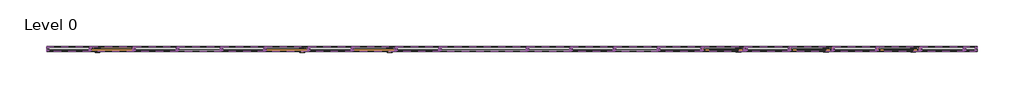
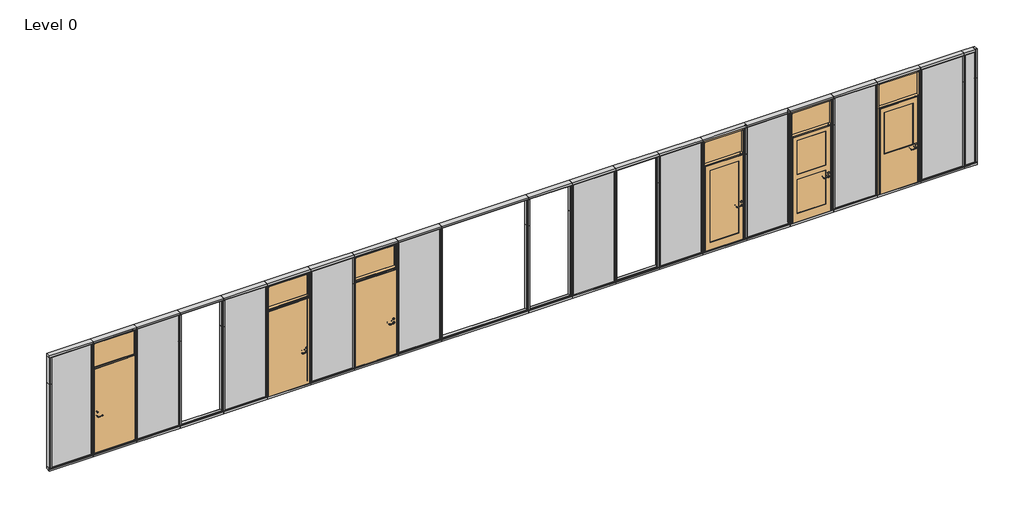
# One storey, incomplete: 88 members, 12 plates, 6 doors.
"""IFC4 building model written with IfcOpenShell, lengths in millimetres."""

from ifc_helpers import new_model, si_unit, origin, place, context, project, spatial, transform, mapped, element, save
from components import door_6222ef06, door_3c1db5f4, door_4baf7495, door_3_3_d5ae6cf6, door_4_4_9f9d6679, door_5_5_48de552c, rectangular_mullion_rectangular_mullion_fw_bottom_a8f9fcf1, rectangular_mullion_rectangular_mullion_fw_bottom_0e01fafb, rectangular_mullion_rectangular_mullion_fw_bottom_02d11245, rectangular_mullion_rectangular_mullion_fw_bottom_2e3af1dd, rectangular_mullion_rectangular_mullion_fw_bottom_7ba08840, rectangular_mullion_rectangular_mullion_fw_left_d1c3b4dc, rectangular_mullion_rectangular_mullion_fw_left_6e35ccd5, rectangular_mullion_rectangular_mullion_fw_right_3b88cd19, rectangular_mullion_rectangular_mullion_fw_right_08d4080d, rectangular_mullion_rectangular_mullion_fw_top_c0870f2a, rectangular_mullion_rectangular_mullion_fw_top_1fdbd171, rectangular_mullion_rectangular_mullion_fw_top_1aba9e78, rectangular_mullion_rectangular_mullion_fw_top_ee255a1c, rectangular_mullion_rectangular_mullion_fw_top_fcf5f003, rectangular_mullion_rectangular_mullion_fw_vertical_2f159c8b, rectangular_mullion_rectangular_mullion_fw_vertical_616d87cb, plate_3e7716df, plate_6305fb53, plate_30c6cda6, plate_ed2b80f9

model = new_model("IFC4")

# Units and contexts
model_context = context("Model", 3, world=origin())
ifc_project = project(units=[si_unit("LENGTHUNIT", "METRE", prefix="MILLI")], contexts=[model_context])

# Site, building, storey
site = spatial("IfcSite", under=ifc_project)
building = spatial("IfcBuilding", under=site)
storey = spatial("IfcBuildingStorey", under=building, Name="Level 0", Elevation=0.0)

# Doors
placement = place(None, origin())
door_shape = door_6222ef06(model_context)
element("IfcDoor", 1, ObjectType="WOOD LINE_GLASPARTI & ELLUCKA : WOOD LINE_GLASPARTI & ELLUCKA", at=placement, inside=storey, context=model_context, shape_type="MappedRepresentation", body=[
    mapped(door_shape, transform((-2222.0187531, 622.312596, 42.0), x_axis=(1.0, 0.0, 0.0), y_axis=(0.0, 1.0, 0.0), z_axis=(0.0, 0.0, 1.0))),
])
door_2_shape = door_3c1db5f4(model_context)
element("IfcDoor", 2, ObjectType="WOOD LINE_DÖRR & GLASPARTI INDRAGEN SOCKEL : WOOD LINE_DÖRR & GLASPARTI INDRAGEN SOCKEL", at=placement, inside=storey, context=model_context, shape_type="MappedRepresentation", body=[
    mapped(door_2_shape, transform((-4222.0187531, 622.312596, 42.0), x_axis=(1.0, 0.0, 0.0), y_axis=(0.0, 1.0, 0.0), z_axis=(0.0, 0.0, 1.0))),
])
door_3_shape = door_4baf7495(model_context)
element("IfcDoor", 3, ObjectType="WOOD LINE_GARDEROBSKARM : WOOD LINE_GARDEROBSKARM", at=placement, inside=storey, context=model_context, shape_type="MappedRepresentation", body=[
    mapped(door_3_shape, transform((-8222.0187531, 622.312596, 42.0), x_axis=(1.0, 0.0, 0.0), y_axis=(0.0, 1.0, 0.0), z_axis=(0.0, 0.0, 1.0))),
])
door_3_3_shape = door_3_3_d5ae6cf6(model_context)
element("IfcDoor", 4, ObjectType="3 : 3", at=placement, inside=storey, context=model_context, shape_type="MappedRepresentation", body=[
    mapped(door_3_3_shape, transform((5767.9812469, 622.312596, 42.0), x_axis=(1.0, 0.0, 0.0), y_axis=(0.0, 1.0, 0.0), z_axis=(0.0, 0.0, 1.0))),
])
door_4_4_shape = door_4_4_9f9d6679(model_context)
element("IfcDoor", 5, ObjectType="4 : 4", at=placement, inside=storey, context=model_context, shape_type="MappedRepresentation", body=[
    mapped(door_4_4_shape, transform((7777.9812469, 622.312596, 42.0), x_axis=(1.0, 0.0, 0.0), y_axis=(0.0, 1.0, 0.0), z_axis=(0.0, 0.0, 1.0))),
])
door_5_5_shape = door_5_5_48de552c(model_context)
element("IfcDoor", 6, ObjectType="5 : 5", at=placement, inside=storey, context=model_context, shape_type="MappedRepresentation", body=[
    mapped(door_5_5_shape, transform((9777.9812469, 622.312596, 42.0), x_axis=(1.0, 0.0, 0.0), y_axis=(0.0, 1.0, 0.0), z_axis=(0.0, 0.0, 1.0))),
])

# Members
rectangular_mullion_rectangular_mullion_fw_bottom_shape = rectangular_mullion_rectangular_mullion_fw_bottom_a8f9fcf1(model_context)
element("IfcMember", 7, ObjectType="Rectangular Mullion : Rectangular Mullion-FW Bottom", at=placement, inside=storey, context=model_context, shape_type="MappedRepresentation", body=[
    mapped(rectangular_mullion_rectangular_mullion_fw_bottom_shape, transform((-8722.0187531, 622.312596, 0.0), x_axis=(0.0, 0.0, -1.0), y_axis=(0.0, -1.0, 0.0), z_axis=(-1.0, 0.0, 0.0))),
])
element("IfcMember", 8, ObjectType="Rectangular Mullion : Rectangular Mullion-FW Bottom", at=placement, inside=storey, context=model_context, shape_type="MappedRepresentation", body=[
    mapped(rectangular_mullion_rectangular_mullion_fw_bottom_shape, transform((-7722.0187531, 622.312596, 0.0), x_axis=(0.0, 0.0, -1.0), y_axis=(0.0, -1.0, 0.0), z_axis=(-1.0, 0.0, 0.0))),
])
element("IfcMember", 9, ObjectType="Rectangular Mullion : Rectangular Mullion-FW Bottom", at=placement, inside=storey, context=model_context, shape_type="MappedRepresentation", body=[
    mapped(rectangular_mullion_rectangular_mullion_fw_bottom_shape, transform((-6722.0187531, 622.312596, 0.0), x_axis=(0.0, 0.0, -1.0), y_axis=(0.0, -1.0, 0.0), z_axis=(-1.0, 0.0, 0.0))),
])
element("IfcMember", 10, ObjectType="Rectangular Mullion : Rectangular Mullion-FW Bottom", at=placement, inside=storey, context=model_context, shape_type="MappedRepresentation", body=[
    mapped(rectangular_mullion_rectangular_mullion_fw_bottom_shape, transform((-5722.0187531, 622.312596, 0.0), x_axis=(0.0, 0.0, -1.0), y_axis=(0.0, -1.0, 0.0), z_axis=(-1.0, 0.0, 0.0))),
])
element("IfcMember", 11, ObjectType="Rectangular Mullion : Rectangular Mullion-FW Bottom", at=placement, inside=storey, context=model_context, shape_type="MappedRepresentation", body=[
    mapped(rectangular_mullion_rectangular_mullion_fw_bottom_shape, transform((-4722.0187531, 622.312596, 0.0), x_axis=(0.0, 0.0, -1.0), y_axis=(0.0, -1.0, 0.0), z_axis=(-1.0, 0.0, 0.0))),
])
element("IfcMember", 12, ObjectType="Rectangular Mullion : Rectangular Mullion-FW Bottom", at=placement, inside=storey, context=model_context, shape_type="MappedRepresentation", body=[
    mapped(rectangular_mullion_rectangular_mullion_fw_bottom_shape, transform((-3722.0187531, 622.312596, 0.0), x_axis=(0.0, 0.0, -1.0), y_axis=(0.0, -1.0, 0.0), z_axis=(-1.0, 0.0, 0.0))),
])
element("IfcMember", 13, ObjectType="Rectangular Mullion : Rectangular Mullion-FW Bottom", at=placement, inside=storey, context=model_context, shape_type="MappedRepresentation", body=[
    mapped(rectangular_mullion_rectangular_mullion_fw_bottom_shape, transform((-2722.0187531, 622.312596, 0.0), x_axis=(0.0, 0.0, -1.0), y_axis=(0.0, -1.0, 0.0), z_axis=(-1.0, 0.0, 0.0))),
])
element("IfcMember", 14, ObjectType="Rectangular Mullion : Rectangular Mullion-FW Bottom", at=placement, inside=storey, context=model_context, shape_type="MappedRepresentation", body=[
    mapped(rectangular_mullion_rectangular_mullion_fw_bottom_shape, transform((-1722.0187531, 622.312596, 0.0), x_axis=(0.0, 0.0, -1.0), y_axis=(0.0, -1.0, 0.0), z_axis=(-1.0, 0.0, 0.0))),
])
element("IfcMember", 15, ObjectType="Rectangular Mullion : Rectangular Mullion-FW Bottom", at=placement, inside=storey, context=model_context, shape_type="MappedRepresentation", body=[
    mapped(rectangular_mullion_rectangular_mullion_fw_bottom_shape, transform((1277.9812469, 622.312596, 0.0), x_axis=(0.0, 0.0, -1.0), y_axis=(0.0, -1.0, 0.0), z_axis=(-1.0, 0.0, 0.0))),
])
element("IfcMember", 16, ObjectType="Rectangular Mullion : Rectangular Mullion-FW Bottom", at=placement, inside=storey, context=model_context, shape_type="MappedRepresentation", body=[
    mapped(rectangular_mullion_rectangular_mullion_fw_bottom_shape, transform((2277.9812469, 622.312596, 0.0), x_axis=(0.0, 0.0, -1.0), y_axis=(0.0, -1.0, 0.0), z_axis=(-1.0, 0.0, 0.0))),
])
element("IfcMember", 17, ObjectType="Rectangular Mullion : Rectangular Mullion-FW Bottom", at=placement, inside=storey, context=model_context, shape_type="MappedRepresentation", body=[
    mapped(rectangular_mullion_rectangular_mullion_fw_bottom_shape, transform((3277.9812469, 622.312596, 0.0), x_axis=(0.0, 0.0, -1.0), y_axis=(0.0, -1.0, 0.0), z_axis=(-1.0, 0.0, 0.0))),
])
element("IfcMember", 18, ObjectType="Rectangular Mullion : Rectangular Mullion-FW Bottom", at=placement, inside=storey, context=model_context, shape_type="MappedRepresentation", body=[
    mapped(rectangular_mullion_rectangular_mullion_fw_bottom_shape, transform((4277.9812469, 622.312596, 0.0), x_axis=(0.0, 0.0, -1.0), y_axis=(0.0, -1.0, 0.0), z_axis=(-1.0, 0.0, 0.0))),
])
element("IfcMember", 19, ObjectType="Rectangular Mullion : Rectangular Mullion-FW Bottom", at=placement, inside=storey, context=model_context, shape_type="MappedRepresentation", body=[
    mapped(rectangular_mullion_rectangular_mullion_fw_bottom_shape, transform((7277.9812469, 622.312596, 0.0), x_axis=(0.0, 0.0, -1.0), y_axis=(0.0, -1.0, 0.0), z_axis=(-1.0, 0.0, 0.0))),
])
element("IfcMember", 20, ObjectType="Rectangular Mullion : Rectangular Mullion-FW Bottom", at=placement, inside=storey, context=model_context, shape_type="MappedRepresentation", body=[
    mapped(rectangular_mullion_rectangular_mullion_fw_bottom_shape, transform((8277.9812469, 622.312596, 0.0), x_axis=(0.0, 0.0, -1.0), y_axis=(0.0, -1.0, 0.0), z_axis=(-1.0, 0.0, 0.0))),
])
element("IfcMember", 21, ObjectType="Rectangular Mullion : Rectangular Mullion-FW Bottom", at=placement, inside=storey, context=model_context, shape_type="MappedRepresentation", body=[
    mapped(rectangular_mullion_rectangular_mullion_fw_bottom_shape, transform((9277.9812469, 622.312596, 0.0), x_axis=(0.0, 0.0, -1.0), y_axis=(0.0, -1.0, 0.0), z_axis=(-1.0, 0.0, 0.0))),
])
element("IfcMember", 22, ObjectType="Rectangular Mullion : Rectangular Mullion-FW Bottom", at=placement, inside=storey, context=model_context, shape_type="MappedRepresentation", body=[
    mapped(rectangular_mullion_rectangular_mullion_fw_bottom_shape, transform((10277.9812469, 622.312596, 0.0), x_axis=(0.0, 0.0, -1.0), y_axis=(0.0, -1.0, 0.0), z_axis=(-1.0, 0.0, 0.0))),
])
element("IfcMember", 23, ObjectType="Rectangular Mullion : Rectangular Mullion-FW Bottom", at=placement, inside=storey, context=model_context, shape_type="MappedRepresentation", body=[
    mapped(rectangular_mullion_rectangular_mullion_fw_bottom_shape, transform((-9722.0187531, 622.312596, 0.0), x_axis=(0.0, 0.0, -1.0), y_axis=(0.0, -1.0, 0.0), z_axis=(-1.0, 0.0, 0.0))),
])
rectangular_mullion_rectangular_mullion_fw_bottom_2_shape = rectangular_mullion_rectangular_mullion_fw_bottom_0e01fafb(model_context)
element("IfcMember", 24, ObjectType="Rectangular Mullion : Rectangular Mullion-FW Bottom", at=placement, inside=storey, context=model_context, shape_type="MappedRepresentation", body=[
    mapped(rectangular_mullion_rectangular_mullion_fw_bottom_2_shape, transform((-722.0187531, 622.312596, 0.0), x_axis=(0.0, 0.0, -1.0), y_axis=(0.0, -1.0, 0.0), z_axis=(-1.0, 0.0, 0.0))),
])
rectangular_mullion_rectangular_mullion_fw_bottom_3_shape = rectangular_mullion_rectangular_mullion_fw_bottom_02d11245(model_context)
element("IfcMember", 25, ObjectType="Rectangular Mullion : Rectangular Mullion-FW Bottom", at=placement, inside=storey, context=model_context, shape_type="MappedRepresentation", body=[
    mapped(rectangular_mullion_rectangular_mullion_fw_bottom_3_shape, transform((5277.9812469, 622.312596, 0.0), x_axis=(0.0, 0.0, -1.0), y_axis=(0.0, -1.0, 0.0), z_axis=(-1.0, 0.0, 0.0))),
])
rectangular_mullion_rectangular_mullion_fw_bottom_4_shape = rectangular_mullion_rectangular_mullion_fw_bottom_2e3af1dd(model_context)
element("IfcMember", 26, ObjectType="Rectangular Mullion : Rectangular Mullion-FW Bottom", at=placement, inside=storey, context=model_context, shape_type="MappedRepresentation", body=[
    mapped(rectangular_mullion_rectangular_mullion_fw_bottom_4_shape, transform((6249.9812469, 622.312596, 0.0), x_axis=(0.0, 0.0, -1.0), y_axis=(0.0, -1.0, 0.0), z_axis=(-1.0, 0.0, 0.0))),
])
rectangular_mullion_rectangular_mullion_fw_bottom_5_shape = rectangular_mullion_rectangular_mullion_fw_bottom_7ba08840(model_context)
element("IfcMember", 27, ObjectType="Rectangular Mullion : Rectangular Mullion-FW Bottom", at=placement, inside=storey, context=model_context, shape_type="MappedRepresentation", body=[
    mapped(rectangular_mullion_rectangular_mullion_fw_bottom_5_shape, transform((11277.9812469, 622.312596, 0.0), x_axis=(0.0, 0.0, -1.0), y_axis=(0.0, -1.0, 0.0), z_axis=(-1.0, 0.0, 0.0))),
])
rectangular_mullion_rectangular_mullion_fw_left_shape = rectangular_mullion_rectangular_mullion_fw_left_d1c3b4dc(model_context)
element("IfcMember", 28, ObjectType="Rectangular Mullion : Rectangular Mullion-FW Left", at=placement, inside=storey, context=model_context, shape_type="MappedRepresentation", body=[
    mapped(rectangular_mullion_rectangular_mullion_fw_left_shape, transform((-9722.0187531, 622.312596, 2738.0), x_axis=(-1.0, 0.0, 0.0), y_axis=(0.0, -1.0, 0.0), z_axis=(0.0, 0.0, 1.0))),
])
rectangular_mullion_rectangular_mullion_fw_left_2_shape = rectangular_mullion_rectangular_mullion_fw_left_6e35ccd5(model_context)
element("IfcMember", 29, ObjectType="Rectangular Mullion : Rectangular Mullion-FW Left", at=placement, inside=storey, context=model_context, shape_type="MappedRepresentation", body=[
    mapped(rectangular_mullion_rectangular_mullion_fw_left_2_shape, transform((-9722.0187531, 622.312596, 2100.0), x_axis=(-1.0, 0.0, 0.0), y_axis=(0.0, -1.0, 0.0), z_axis=(0.0, 0.0, 1.0))),
])
rectangular_mullion_rectangular_mullion_fw_right_shape = rectangular_mullion_rectangular_mullion_fw_right_3b88cd19(model_context)
element("IfcMember", 30, ObjectType="Rectangular Mullion : Rectangular Mullion-FW Right", at=placement, inside=storey, context=model_context, shape_type="MappedRepresentation", body=[
    mapped(rectangular_mullion_rectangular_mullion_fw_right_shape, transform((11577.9812469, 622.312596, 62.0), x_axis=(1.0, 0.0, 0.0), y_axis=(0.0, -1.0, 0.0), z_axis=(0.0, 0.0, -1.0))),
])
rectangular_mullion_rectangular_mullion_fw_right_2_shape = rectangular_mullion_rectangular_mullion_fw_right_08d4080d(model_context)
element("IfcMember", 31, ObjectType="Rectangular Mullion : Rectangular Mullion-FW Right", at=placement, inside=storey, context=model_context, shape_type="MappedRepresentation", body=[
    mapped(rectangular_mullion_rectangular_mullion_fw_right_2_shape, transform((11577.9812469, 622.312596, 2100.0), x_axis=(1.0, 0.0, 0.0), y_axis=(0.0, -1.0, 0.0), z_axis=(0.0, 0.0, -1.0))),
])
rectangular_mullion_rectangular_mullion_fw_top_shape = rectangular_mullion_rectangular_mullion_fw_top_c0870f2a(model_context)
element("IfcMember", 32, ObjectType="Rectangular Mullion : Rectangular Mullion-FW Top", at=placement, inside=storey, context=model_context, shape_type="MappedRepresentation", body=[
    mapped(rectangular_mullion_rectangular_mullion_fw_top_shape, transform((-8722.0187531, 622.312596, 2800.0), x_axis=(0.0, 0.0, 1.0), y_axis=(0.0, -1.0, 0.0), z_axis=(1.0, 0.0, 0.0))),
])
element("IfcMember", 33, ObjectType="Rectangular Mullion : Rectangular Mullion-FW Top", at=placement, inside=storey, context=model_context, shape_type="MappedRepresentation", body=[
    mapped(rectangular_mullion_rectangular_mullion_fw_top_shape, transform((-7722.0187531, 622.312596, 2800.0), x_axis=(0.0, 0.0, 1.0), y_axis=(0.0, -1.0, 0.0), z_axis=(1.0, 0.0, 0.0))),
])
element("IfcMember", 34, ObjectType="Rectangular Mullion : Rectangular Mullion-FW Top", at=placement, inside=storey, context=model_context, shape_type="MappedRepresentation", body=[
    mapped(rectangular_mullion_rectangular_mullion_fw_top_shape, transform((-6722.0187531, 622.312596, 2800.0), x_axis=(0.0, 0.0, 1.0), y_axis=(0.0, -1.0, 0.0), z_axis=(1.0, 0.0, 0.0))),
])
element("IfcMember", 35, ObjectType="Rectangular Mullion : Rectangular Mullion-FW Top", at=placement, inside=storey, context=model_context, shape_type="MappedRepresentation", body=[
    mapped(rectangular_mullion_rectangular_mullion_fw_top_shape, transform((-5722.0187531, 622.312596, 2800.0), x_axis=(0.0, 0.0, 1.0), y_axis=(0.0, -1.0, 0.0), z_axis=(1.0, 0.0, 0.0))),
])
element("IfcMember", 36, ObjectType="Rectangular Mullion : Rectangular Mullion-FW Top", at=placement, inside=storey, context=model_context, shape_type="MappedRepresentation", body=[
    mapped(rectangular_mullion_rectangular_mullion_fw_top_shape, transform((-4722.0187531, 622.312596, 2800.0), x_axis=(0.0, 0.0, 1.0), y_axis=(0.0, -1.0, 0.0), z_axis=(1.0, 0.0, 0.0))),
])
element("IfcMember", 37, ObjectType="Rectangular Mullion : Rectangular Mullion-FW Top", at=placement, inside=storey, context=model_context, shape_type="MappedRepresentation", body=[
    mapped(rectangular_mullion_rectangular_mullion_fw_top_shape, transform((-3722.0187531, 622.312596, 2800.0), x_axis=(0.0, 0.0, 1.0), y_axis=(0.0, -1.0, 0.0), z_axis=(1.0, 0.0, 0.0))),
])
element("IfcMember", 38, ObjectType="Rectangular Mullion : Rectangular Mullion-FW Top", at=placement, inside=storey, context=model_context, shape_type="MappedRepresentation", body=[
    mapped(rectangular_mullion_rectangular_mullion_fw_top_shape, transform((-2722.0187531, 622.312596, 2800.0), x_axis=(0.0, 0.0, 1.0), y_axis=(0.0, -1.0, 0.0), z_axis=(1.0, 0.0, 0.0))),
])
element("IfcMember", 39, ObjectType="Rectangular Mullion : Rectangular Mullion-FW Top", at=placement, inside=storey, context=model_context, shape_type="MappedRepresentation", body=[
    mapped(rectangular_mullion_rectangular_mullion_fw_top_shape, transform((-1722.0187531, 622.312596, 2800.0), x_axis=(0.0, 0.0, 1.0), y_axis=(0.0, -1.0, 0.0), z_axis=(1.0, 0.0, 0.0))),
])
element("IfcMember", 40, ObjectType="Rectangular Mullion : Rectangular Mullion-FW Top", at=placement, inside=storey, context=model_context, shape_type="MappedRepresentation", body=[
    mapped(rectangular_mullion_rectangular_mullion_fw_top_shape, transform((-722.0187531, 622.312596, 2800.0), x_axis=(0.0, 0.0, 1.0), y_axis=(0.0, -1.0, 0.0), z_axis=(1.0, 0.0, 0.0))),
])
element("IfcMember", 41, ObjectType="Rectangular Mullion : Rectangular Mullion-FW Top", at=placement, inside=storey, context=model_context, shape_type="MappedRepresentation", body=[
    mapped(rectangular_mullion_rectangular_mullion_fw_top_shape, transform((2277.9812469, 622.312596, 2800.0), x_axis=(0.0, 0.0, 1.0), y_axis=(0.0, -1.0, 0.0), z_axis=(1.0, 0.0, 0.0))),
])
element("IfcMember", 42, ObjectType="Rectangular Mullion : Rectangular Mullion-FW Top", at=placement, inside=storey, context=model_context, shape_type="MappedRepresentation", body=[
    mapped(rectangular_mullion_rectangular_mullion_fw_top_shape, transform((3277.9812469, 622.312596, 2800.0), x_axis=(0.0, 0.0, 1.0), y_axis=(0.0, -1.0, 0.0), z_axis=(1.0, 0.0, 0.0))),
])
element("IfcMember", 43, ObjectType="Rectangular Mullion : Rectangular Mullion-FW Top", at=placement, inside=storey, context=model_context, shape_type="MappedRepresentation", body=[
    mapped(rectangular_mullion_rectangular_mullion_fw_top_shape, transform((4277.9812469, 622.312596, 2800.0), x_axis=(0.0, 0.0, 1.0), y_axis=(0.0, -1.0, 0.0), z_axis=(1.0, 0.0, 0.0))),
])
element("IfcMember", 44, ObjectType="Rectangular Mullion : Rectangular Mullion-FW Top", at=placement, inside=storey, context=model_context, shape_type="MappedRepresentation", body=[
    mapped(rectangular_mullion_rectangular_mullion_fw_top_shape, transform((5277.9812469, 622.312596, 2800.0), x_axis=(0.0, 0.0, 1.0), y_axis=(0.0, -1.0, 0.0), z_axis=(1.0, 0.0, 0.0))),
])
element("IfcMember", 45, ObjectType="Rectangular Mullion : Rectangular Mullion-FW Top", at=placement, inside=storey, context=model_context, shape_type="MappedRepresentation", body=[
    mapped(rectangular_mullion_rectangular_mullion_fw_top_shape, transform((8277.9812469, 622.312596, 2800.0), x_axis=(0.0, 0.0, 1.0), y_axis=(0.0, -1.0, 0.0), z_axis=(1.0, 0.0, 0.0))),
])
element("IfcMember", 46, ObjectType="Rectangular Mullion : Rectangular Mullion-FW Top", at=placement, inside=storey, context=model_context, shape_type="MappedRepresentation", body=[
    mapped(rectangular_mullion_rectangular_mullion_fw_top_shape, transform((9277.9812469, 622.312596, 2800.0), x_axis=(0.0, 0.0, 1.0), y_axis=(0.0, -1.0, 0.0), z_axis=(1.0, 0.0, 0.0))),
])
element("IfcMember", 47, ObjectType="Rectangular Mullion : Rectangular Mullion-FW Top", at=placement, inside=storey, context=model_context, shape_type="MappedRepresentation", body=[
    mapped(rectangular_mullion_rectangular_mullion_fw_top_shape, transform((10277.9812469, 622.312596, 2800.0), x_axis=(0.0, 0.0, 1.0), y_axis=(0.0, -1.0, 0.0), z_axis=(1.0, 0.0, 0.0))),
])
element("IfcMember", 48, ObjectType="Rectangular Mullion : Rectangular Mullion-FW Top", at=placement, inside=storey, context=model_context, shape_type="MappedRepresentation", body=[
    mapped(rectangular_mullion_rectangular_mullion_fw_top_shape, transform((11277.9812469, 622.312596, 2800.0), x_axis=(0.0, 0.0, 1.0), y_axis=(0.0, -1.0, 0.0), z_axis=(1.0, 0.0, 0.0))),
])
rectangular_mullion_rectangular_mullion_fw_top_2_shape = rectangular_mullion_rectangular_mullion_fw_top_1fdbd171(model_context)
element("IfcMember", 49, ObjectType="Rectangular Mullion : Rectangular Mullion-FW Top", at=placement, inside=storey, context=model_context, shape_type="MappedRepresentation", body=[
    mapped(rectangular_mullion_rectangular_mullion_fw_top_2_shape, transform((1277.9812469, 622.312596, 2800.0), x_axis=(0.0, 0.0, 1.0), y_axis=(0.0, -1.0, 0.0), z_axis=(1.0, 0.0, 0.0))),
])
rectangular_mullion_rectangular_mullion_fw_top_3_shape = rectangular_mullion_rectangular_mullion_fw_top_1aba9e78(model_context)
element("IfcMember", 50, ObjectType="Rectangular Mullion : Rectangular Mullion-FW Top", at=placement, inside=storey, context=model_context, shape_type="MappedRepresentation", body=[
    mapped(rectangular_mullion_rectangular_mullion_fw_top_3_shape, transform((6285.9812469, 622.312596, 2800.0), x_axis=(0.0, 0.0, 1.0), y_axis=(0.0, -1.0, 0.0), z_axis=(1.0, 0.0, 0.0))),
])
rectangular_mullion_rectangular_mullion_fw_top_4_shape = rectangular_mullion_rectangular_mullion_fw_top_ee255a1c(model_context)
element("IfcMember", 51, ObjectType="Rectangular Mullion : Rectangular Mullion-FW Top", at=placement, inside=storey, context=model_context, shape_type="MappedRepresentation", body=[
    mapped(rectangular_mullion_rectangular_mullion_fw_top_4_shape, transform((7277.9812469, 622.312596, 2800.0), x_axis=(0.0, 0.0, 1.0), y_axis=(0.0, -1.0, 0.0), z_axis=(1.0, 0.0, 0.0))),
])
rectangular_mullion_rectangular_mullion_fw_top_5_shape = rectangular_mullion_rectangular_mullion_fw_top_fcf5f003(model_context)
element("IfcMember", 52, ObjectType="Rectangular Mullion : Rectangular Mullion-FW Top", at=placement, inside=storey, context=model_context, shape_type="MappedRepresentation", body=[
    mapped(rectangular_mullion_rectangular_mullion_fw_top_5_shape, transform((11521.9812469, 622.312596, 2800.0), x_axis=(0.0, 0.0, 1.0), y_axis=(0.0, -1.0, 0.0), z_axis=(1.0, 0.0, 0.0))),
])
rectangular_mullion_rectangular_mullion_fw_vertical_shape = rectangular_mullion_rectangular_mullion_fw_vertical_2f159c8b(model_context)
element("IfcMember", 53, ObjectType="Rectangular Mullion : Rectangular Mullion-FW Vertical", at=placement, inside=storey, context=model_context, shape_type="MappedRepresentation", body=[
    mapped(rectangular_mullion_rectangular_mullion_fw_vertical_shape, transform((-8722.0187531, 622.312596, 62.0), x_axis=(1.0, 0.0, 0.0), y_axis=(0.0, -1.0, 0.0), z_axis=(0.0, 0.0, -1.0))),
])
element("IfcMember", 54, ObjectType="Rectangular Mullion : Rectangular Mullion-FW Vertical", at=placement, inside=storey, context=model_context, shape_type="MappedRepresentation", body=[
    mapped(rectangular_mullion_rectangular_mullion_fw_vertical_shape, transform((-7722.0187531, 622.312596, 62.0), x_axis=(1.0, 0.0, 0.0), y_axis=(0.0, -1.0, 0.0), z_axis=(0.0, 0.0, -1.0))),
])
element("IfcMember", 55, ObjectType="Rectangular Mullion : Rectangular Mullion-FW Vertical", at=placement, inside=storey, context=model_context, shape_type="MappedRepresentation", body=[
    mapped(rectangular_mullion_rectangular_mullion_fw_vertical_shape, transform((-6722.0187531, 622.312596, 62.0), x_axis=(1.0, 0.0, 0.0), y_axis=(0.0, -1.0, 0.0), z_axis=(0.0, 0.0, -1.0))),
])
element("IfcMember", 56, ObjectType="Rectangular Mullion : Rectangular Mullion-FW Vertical", at=placement, inside=storey, context=model_context, shape_type="MappedRepresentation", body=[
    mapped(rectangular_mullion_rectangular_mullion_fw_vertical_shape, transform((-5722.0187531, 622.312596, 62.0), x_axis=(1.0, 0.0, 0.0), y_axis=(0.0, -1.0, 0.0), z_axis=(0.0, 0.0, -1.0))),
])
element("IfcMember", 57, ObjectType="Rectangular Mullion : Rectangular Mullion-FW Vertical", at=placement, inside=storey, context=model_context, shape_type="MappedRepresentation", body=[
    mapped(rectangular_mullion_rectangular_mullion_fw_vertical_shape, transform((-4722.0187531, 622.312596, 62.0), x_axis=(1.0, 0.0, 0.0), y_axis=(0.0, -1.0, 0.0), z_axis=(0.0, 0.0, -1.0))),
])
element("IfcMember", 58, ObjectType="Rectangular Mullion : Rectangular Mullion-FW Vertical", at=placement, inside=storey, context=model_context, shape_type="MappedRepresentation", body=[
    mapped(rectangular_mullion_rectangular_mullion_fw_vertical_shape, transform((-3722.0187531, 622.312596, 62.0), x_axis=(1.0, 0.0, 0.0), y_axis=(0.0, -1.0, 0.0), z_axis=(0.0, 0.0, -1.0))),
])
element("IfcMember", 59, ObjectType="Rectangular Mullion : Rectangular Mullion-FW Vertical", at=placement, inside=storey, context=model_context, shape_type="MappedRepresentation", body=[
    mapped(rectangular_mullion_rectangular_mullion_fw_vertical_shape, transform((-2722.0187531, 622.312596, 62.0), x_axis=(1.0, 0.0, 0.0), y_axis=(0.0, -1.0, 0.0), z_axis=(0.0, 0.0, -1.0))),
])
element("IfcMember", 60, ObjectType="Rectangular Mullion : Rectangular Mullion-FW Vertical", at=placement, inside=storey, context=model_context, shape_type="MappedRepresentation", body=[
    mapped(rectangular_mullion_rectangular_mullion_fw_vertical_shape, transform((-1722.0187531, 622.312596, 62.0), x_axis=(1.0, 0.0, 0.0), y_axis=(0.0, -1.0, 0.0), z_axis=(0.0, 0.0, -1.0))),
])
element("IfcMember", 61, ObjectType="Rectangular Mullion : Rectangular Mullion-FW Vertical", at=placement, inside=storey, context=model_context, shape_type="MappedRepresentation", body=[
    mapped(rectangular_mullion_rectangular_mullion_fw_vertical_shape, transform((-722.0187531, 622.312596, 62.0), x_axis=(1.0, 0.0, 0.0), y_axis=(0.0, -1.0, 0.0), z_axis=(0.0, 0.0, -1.0))),
])
element("IfcMember", 62, ObjectType="Rectangular Mullion : Rectangular Mullion-FW Vertical", at=placement, inside=storey, context=model_context, shape_type="MappedRepresentation", body=[
    mapped(rectangular_mullion_rectangular_mullion_fw_vertical_shape, transform((6257.9812469, 622.312596, 62.0), x_axis=(1.0, 0.0, 0.0), y_axis=(0.0, -1.0, 0.0), z_axis=(0.0, 0.0, -1.0))),
])
element("IfcMember", 63, ObjectType="Rectangular Mullion : Rectangular Mullion-FW Vertical", at=placement, inside=storey, context=model_context, shape_type="MappedRepresentation", body=[
    mapped(rectangular_mullion_rectangular_mullion_fw_vertical_shape, transform((1277.9812469, 622.312596, 62.0), x_axis=(1.0, 0.0, 0.0), y_axis=(0.0, -1.0, 0.0), z_axis=(0.0, 0.0, -1.0))),
])
element("IfcMember", 64, ObjectType="Rectangular Mullion : Rectangular Mullion-FW Vertical", at=placement, inside=storey, context=model_context, shape_type="MappedRepresentation", body=[
    mapped(rectangular_mullion_rectangular_mullion_fw_vertical_shape, transform((2277.9812469, 622.312596, 62.0), x_axis=(1.0, 0.0, 0.0), y_axis=(0.0, -1.0, 0.0), z_axis=(0.0, 0.0, -1.0))),
])
element("IfcMember", 65, ObjectType="Rectangular Mullion : Rectangular Mullion-FW Vertical", at=placement, inside=storey, context=model_context, shape_type="MappedRepresentation", body=[
    mapped(rectangular_mullion_rectangular_mullion_fw_vertical_shape, transform((3277.9812469, 622.312596, 62.0), x_axis=(1.0, 0.0, 0.0), y_axis=(0.0, -1.0, 0.0), z_axis=(0.0, 0.0, -1.0))),
])
element("IfcMember", 66, ObjectType="Rectangular Mullion : Rectangular Mullion-FW Vertical", at=placement, inside=storey, context=model_context, shape_type="MappedRepresentation", body=[
    mapped(rectangular_mullion_rectangular_mullion_fw_vertical_shape, transform((4277.9812469, 622.312596, 62.0), x_axis=(1.0, 0.0, 0.0), y_axis=(0.0, -1.0, 0.0), z_axis=(0.0, 0.0, -1.0))),
])
element("IfcMember", 67, ObjectType="Rectangular Mullion : Rectangular Mullion-FW Vertical", at=placement, inside=storey, context=model_context, shape_type="MappedRepresentation", body=[
    mapped(rectangular_mullion_rectangular_mullion_fw_vertical_shape, transform((5277.9812469, 622.312596, 62.0), x_axis=(1.0, 0.0, 0.0), y_axis=(0.0, -1.0, 0.0), z_axis=(0.0, 0.0, -1.0))),
])
element("IfcMember", 68, ObjectType="Rectangular Mullion : Rectangular Mullion-FW Vertical", at=placement, inside=storey, context=model_context, shape_type="MappedRepresentation", body=[
    mapped(rectangular_mullion_rectangular_mullion_fw_vertical_shape, transform((6277.9812469, 622.312596, 62.0), x_axis=(1.0, 0.0, 0.0), y_axis=(0.0, -1.0, 0.0), z_axis=(0.0, 0.0, -1.0))),
])
element("IfcMember", 69, ObjectType="Rectangular Mullion : Rectangular Mullion-FW Vertical", at=placement, inside=storey, context=model_context, shape_type="MappedRepresentation", body=[
    mapped(rectangular_mullion_rectangular_mullion_fw_vertical_shape, transform((7277.9812469, 622.312596, 62.0), x_axis=(1.0, 0.0, 0.0), y_axis=(0.0, -1.0, 0.0), z_axis=(0.0, 0.0, -1.0))),
])
element("IfcMember", 70, ObjectType="Rectangular Mullion : Rectangular Mullion-FW Vertical", at=placement, inside=storey, context=model_context, shape_type="MappedRepresentation", body=[
    mapped(rectangular_mullion_rectangular_mullion_fw_vertical_shape, transform((8277.9812469, 622.312596, 62.0), x_axis=(1.0, 0.0, 0.0), y_axis=(0.0, -1.0, 0.0), z_axis=(0.0, 0.0, -1.0))),
])
element("IfcMember", 71, ObjectType="Rectangular Mullion : Rectangular Mullion-FW Vertical", at=placement, inside=storey, context=model_context, shape_type="MappedRepresentation", body=[
    mapped(rectangular_mullion_rectangular_mullion_fw_vertical_shape, transform((9277.9812469, 622.312596, 62.0), x_axis=(1.0, 0.0, 0.0), y_axis=(0.0, -1.0, 0.0), z_axis=(0.0, 0.0, -1.0))),
])
element("IfcMember", 72, ObjectType="Rectangular Mullion : Rectangular Mullion-FW Vertical", at=placement, inside=storey, context=model_context, shape_type="MappedRepresentation", body=[
    mapped(rectangular_mullion_rectangular_mullion_fw_vertical_shape, transform((10277.9812469, 622.312596, 62.0), x_axis=(1.0, 0.0, 0.0), y_axis=(0.0, -1.0, 0.0), z_axis=(0.0, 0.0, -1.0))),
])
element("IfcMember", 73, ObjectType="Rectangular Mullion : Rectangular Mullion-FW Vertical", at=placement, inside=storey, context=model_context, shape_type="MappedRepresentation", body=[
    mapped(rectangular_mullion_rectangular_mullion_fw_vertical_shape, transform((11277.9812469, 622.312596, 62.0), x_axis=(1.0, 0.0, 0.0), y_axis=(0.0, -1.0, 0.0), z_axis=(0.0, 0.0, -1.0))),
])
rectangular_mullion_rectangular_mullion_fw_vertical_2_shape = rectangular_mullion_rectangular_mullion_fw_vertical_616d87cb(model_context)
element("IfcMember", 74, ObjectType="Rectangular Mullion : Rectangular Mullion-FW Vertical", at=placement, inside=storey, context=model_context, shape_type="MappedRepresentation", body=[
    mapped(rectangular_mullion_rectangular_mullion_fw_vertical_2_shape, transform((-8722.0187531, 622.312596, 2100.0), x_axis=(1.0, 0.0, 0.0), y_axis=(0.0, -1.0, 0.0), z_axis=(0.0, 0.0, -1.0))),
])
element("IfcMember", 75, ObjectType="Rectangular Mullion : Rectangular Mullion-FW Vertical", at=placement, inside=storey, context=model_context, shape_type="MappedRepresentation", body=[
    mapped(rectangular_mullion_rectangular_mullion_fw_vertical_2_shape, transform((-7722.0187531, 622.312596, 2100.0), x_axis=(1.0, 0.0, 0.0), y_axis=(0.0, -1.0, 0.0), z_axis=(0.0, 0.0, -1.0))),
])
element("IfcMember", 76, ObjectType="Rectangular Mullion : Rectangular Mullion-FW Vertical", at=placement, inside=storey, context=model_context, shape_type="MappedRepresentation", body=[
    mapped(rectangular_mullion_rectangular_mullion_fw_vertical_2_shape, transform((-6722.0187531, 622.312596, 2100.0), x_axis=(1.0, 0.0, 0.0), y_axis=(0.0, -1.0, 0.0), z_axis=(0.0, 0.0, -1.0))),
])
element("IfcMember", 77, ObjectType="Rectangular Mullion : Rectangular Mullion-FW Vertical", at=placement, inside=storey, context=model_context, shape_type="MappedRepresentation", body=[
    mapped(rectangular_mullion_rectangular_mullion_fw_vertical_2_shape, transform((-5722.0187531, 622.312596, 2100.0), x_axis=(1.0, 0.0, 0.0), y_axis=(0.0, -1.0, 0.0), z_axis=(0.0, 0.0, -1.0))),
])
element("IfcMember", 78, ObjectType="Rectangular Mullion : Rectangular Mullion-FW Vertical", at=placement, inside=storey, context=model_context, shape_type="MappedRepresentation", body=[
    mapped(rectangular_mullion_rectangular_mullion_fw_vertical_2_shape, transform((-4722.0187531, 622.312596, 2100.0), x_axis=(1.0, 0.0, 0.0), y_axis=(0.0, -1.0, 0.0), z_axis=(0.0, 0.0, -1.0))),
])
element("IfcMember", 79, ObjectType="Rectangular Mullion : Rectangular Mullion-FW Vertical", at=placement, inside=storey, context=model_context, shape_type="MappedRepresentation", body=[
    mapped(rectangular_mullion_rectangular_mullion_fw_vertical_2_shape, transform((-3722.0187531, 622.312596, 2100.0), x_axis=(1.0, 0.0, 0.0), y_axis=(0.0, -1.0, 0.0), z_axis=(0.0, 0.0, -1.0))),
])
element("IfcMember", 80, ObjectType="Rectangular Mullion : Rectangular Mullion-FW Vertical", at=placement, inside=storey, context=model_context, shape_type="MappedRepresentation", body=[
    mapped(rectangular_mullion_rectangular_mullion_fw_vertical_2_shape, transform((-2722.0187531, 622.312596, 2100.0), x_axis=(1.0, 0.0, 0.0), y_axis=(0.0, -1.0, 0.0), z_axis=(0.0, 0.0, -1.0))),
])
element("IfcMember", 81, ObjectType="Rectangular Mullion : Rectangular Mullion-FW Vertical", at=placement, inside=storey, context=model_context, shape_type="MappedRepresentation", body=[
    mapped(rectangular_mullion_rectangular_mullion_fw_vertical_2_shape, transform((-1722.0187531, 622.312596, 2100.0), x_axis=(1.0, 0.0, 0.0), y_axis=(0.0, -1.0, 0.0), z_axis=(0.0, 0.0, -1.0))),
])
element("IfcMember", 82, ObjectType="Rectangular Mullion : Rectangular Mullion-FW Vertical", at=placement, inside=storey, context=model_context, shape_type="MappedRepresentation", body=[
    mapped(rectangular_mullion_rectangular_mullion_fw_vertical_2_shape, transform((-722.0187531, 622.312596, 2100.0), x_axis=(1.0, 0.0, 0.0), y_axis=(0.0, -1.0, 0.0), z_axis=(0.0, 0.0, -1.0))),
])
element("IfcMember", 83, ObjectType="Rectangular Mullion : Rectangular Mullion-FW Vertical", at=placement, inside=storey, context=model_context, shape_type="MappedRepresentation", body=[
    mapped(rectangular_mullion_rectangular_mullion_fw_vertical_2_shape, transform((6257.9812469, 622.312596, 2100.0), x_axis=(1.0, 0.0, 0.0), y_axis=(0.0, -1.0, 0.0), z_axis=(0.0, 0.0, -1.0))),
])
element("IfcMember", 84, ObjectType="Rectangular Mullion : Rectangular Mullion-FW Vertical", at=placement, inside=storey, context=model_context, shape_type="MappedRepresentation", body=[
    mapped(rectangular_mullion_rectangular_mullion_fw_vertical_2_shape, transform((1277.9812469, 622.312596, 2100.0), x_axis=(1.0, 0.0, 0.0), y_axis=(0.0, -1.0, 0.0), z_axis=(0.0, 0.0, -1.0))),
])
element("IfcMember", 85, ObjectType="Rectangular Mullion : Rectangular Mullion-FW Vertical", at=placement, inside=storey, context=model_context, shape_type="MappedRepresentation", body=[
    mapped(rectangular_mullion_rectangular_mullion_fw_vertical_2_shape, transform((2277.9812469, 622.312596, 2100.0), x_axis=(1.0, 0.0, 0.0), y_axis=(0.0, -1.0, 0.0), z_axis=(0.0, 0.0, -1.0))),
])
element("IfcMember", 86, ObjectType="Rectangular Mullion : Rectangular Mullion-FW Vertical", at=placement, inside=storey, context=model_context, shape_type="MappedRepresentation", body=[
    mapped(rectangular_mullion_rectangular_mullion_fw_vertical_2_shape, transform((3277.9812469, 622.312596, 2100.0), x_axis=(1.0, 0.0, 0.0), y_axis=(0.0, -1.0, 0.0), z_axis=(0.0, 0.0, -1.0))),
])
element("IfcMember", 87, ObjectType="Rectangular Mullion : Rectangular Mullion-FW Vertical", at=placement, inside=storey, context=model_context, shape_type="MappedRepresentation", body=[
    mapped(rectangular_mullion_rectangular_mullion_fw_vertical_2_shape, transform((4277.9812469, 622.312596, 2100.0), x_axis=(1.0, 0.0, 0.0), y_axis=(0.0, -1.0, 0.0), z_axis=(0.0, 0.0, -1.0))),
])
element("IfcMember", 88, ObjectType="Rectangular Mullion : Rectangular Mullion-FW Vertical", at=placement, inside=storey, context=model_context, shape_type="MappedRepresentation", body=[
    mapped(rectangular_mullion_rectangular_mullion_fw_vertical_2_shape, transform((5277.9812469, 622.312596, 2100.0), x_axis=(1.0, 0.0, 0.0), y_axis=(0.0, -1.0, 0.0), z_axis=(0.0, 0.0, -1.0))),
])
element("IfcMember", 89, ObjectType="Rectangular Mullion : Rectangular Mullion-FW Vertical", at=placement, inside=storey, context=model_context, shape_type="MappedRepresentation", body=[
    mapped(rectangular_mullion_rectangular_mullion_fw_vertical_2_shape, transform((6277.9812469, 622.312596, 2100.0), x_axis=(1.0, 0.0, 0.0), y_axis=(0.0, -1.0, 0.0), z_axis=(0.0, 0.0, -1.0))),
])
element("IfcMember", 90, ObjectType="Rectangular Mullion : Rectangular Mullion-FW Vertical", at=placement, inside=storey, context=model_context, shape_type="MappedRepresentation", body=[
    mapped(rectangular_mullion_rectangular_mullion_fw_vertical_2_shape, transform((7277.9812469, 622.312596, 2100.0), x_axis=(1.0, 0.0, 0.0), y_axis=(0.0, -1.0, 0.0), z_axis=(0.0, 0.0, -1.0))),
])
element("IfcMember", 91, ObjectType="Rectangular Mullion : Rectangular Mullion-FW Vertical", at=placement, inside=storey, context=model_context, shape_type="MappedRepresentation", body=[
    mapped(rectangular_mullion_rectangular_mullion_fw_vertical_2_shape, transform((8277.9812469, 622.312596, 2100.0), x_axis=(1.0, 0.0, 0.0), y_axis=(0.0, -1.0, 0.0), z_axis=(0.0, 0.0, -1.0))),
])
element("IfcMember", 92, ObjectType="Rectangular Mullion : Rectangular Mullion-FW Vertical", at=placement, inside=storey, context=model_context, shape_type="MappedRepresentation", body=[
    mapped(rectangular_mullion_rectangular_mullion_fw_vertical_2_shape, transform((9277.9812469, 622.312596, 2100.0), x_axis=(1.0, 0.0, 0.0), y_axis=(0.0, -1.0, 0.0), z_axis=(0.0, 0.0, -1.0))),
])
element("IfcMember", 93, ObjectType="Rectangular Mullion : Rectangular Mullion-FW Vertical", at=placement, inside=storey, context=model_context, shape_type="MappedRepresentation", body=[
    mapped(rectangular_mullion_rectangular_mullion_fw_vertical_2_shape, transform((10277.9812469, 622.312596, 2100.0), x_axis=(1.0, 0.0, 0.0), y_axis=(0.0, -1.0, 0.0), z_axis=(0.0, 0.0, -1.0))),
])
element("IfcMember", 94, ObjectType="Rectangular Mullion : Rectangular Mullion-FW Vertical", at=placement, inside=storey, context=model_context, shape_type="MappedRepresentation", body=[
    mapped(rectangular_mullion_rectangular_mullion_fw_vertical_2_shape, transform((11277.9812469, 622.312596, 2100.0), x_axis=(1.0, 0.0, 0.0), y_axis=(0.0, -1.0, 0.0), z_axis=(0.0, 0.0, -1.0))),
])

# Plates
plate_shape = plate_3e7716df(model_context)
element("IfcPlate", 95, ObjectType="Panel Flex Woodline : Panel Flex Woodline", at=placement, inside=storey, context=model_context, shape_type="MappedRepresentation", body=[
    mapped(plate_shape, transform((-9208.0187531, 622.312596, 42.0), x_axis=(1.0, 0.0, 0.0), y_axis=(0.0, 1.0, 0.0), z_axis=(0.0, 0.0, 1.0))),
])
plate_2_shape = plate_6305fb53(model_context)
element("IfcPlate", 96, ObjectType="Panel Flex Woodline : Panel Flex Woodline", at=placement, inside=storey, context=model_context, shape_type="MappedRepresentation", body=[
    mapped(plate_2_shape, transform((-7222.0187531, 622.312596, 42.0), x_axis=(1.0, 0.0, 0.0), y_axis=(0.0, 1.0, 0.0), z_axis=(0.0, 0.0, 1.0))),
])
element("IfcPlate", 97, ObjectType="Panel Flex Woodline : Panel Flex Woodline", at=placement, inside=storey, context=model_context, shape_type="MappedRepresentation", body=[
    mapped(plate_2_shape, transform((-5222.0187531, 622.312596, 42.0), x_axis=(1.0, 0.0, 0.0), y_axis=(0.0, 1.0, 0.0), z_axis=(0.0, 0.0, 1.0))),
])
element("IfcPlate", 98, ObjectType="Panel Flex Woodline : Panel Flex Woodline", at=placement, inside=storey, context=model_context, shape_type="MappedRepresentation", body=[
    mapped(plate_2_shape, transform((-3222.0187531, 622.312596, 42.0), x_axis=(1.0, 0.0, 0.0), y_axis=(0.0, 1.0, 0.0), z_axis=(0.0, 0.0, 1.0))),
])
element("IfcPlate", 99, ObjectType="Panel Flex Woodline : Panel Flex Woodline", at=placement, inside=storey, context=model_context, shape_type="MappedRepresentation", body=[
    mapped(plate_2_shape, transform((-1222.0187531, 622.312596, 42.0), x_axis=(1.0, 0.0, 0.0), y_axis=(0.0, 1.0, 0.0), z_axis=(0.0, 0.0, 1.0))),
])
element("IfcPlate", 100, ObjectType="Panel Flex Woodline : Panel Flex Woodline", at=placement, inside=storey, context=model_context, shape_type="MappedRepresentation", body=[
    mapped(plate_2_shape, transform((2777.9812469, 622.312596, 42.0), x_axis=(1.0, 0.0, 0.0), y_axis=(0.0, 1.0, 0.0), z_axis=(0.0, 0.0, 1.0))),
])
element("IfcPlate", 101, ObjectType="Panel Flex Woodline : Panel Flex Woodline", at=placement, inside=storey, context=model_context, shape_type="MappedRepresentation", body=[
    mapped(plate_2_shape, transform((4777.9812469, 622.312596, 42.0), x_axis=(1.0, 0.0, 0.0), y_axis=(0.0, 1.0, 0.0), z_axis=(0.0, 0.0, 1.0))),
])
element("IfcPlate", 102, ObjectType="Panel Flex Woodline : Panel Flex Woodline", at=placement, inside=storey, context=model_context, shape_type="MappedRepresentation", body=[
    mapped(plate_2_shape, transform((6777.9812469, 622.312596, 42.0), x_axis=(1.0, 0.0, 0.0), y_axis=(0.0, 1.0, 0.0), z_axis=(0.0, 0.0, 1.0))),
])
element("IfcPlate", 103, ObjectType="Panel Flex Woodline : Panel Flex Woodline", at=placement, inside=storey, context=model_context, shape_type="MappedRepresentation", body=[
    mapped(plate_2_shape, transform((8777.9812469, 622.312596, 42.0), x_axis=(1.0, 0.0, 0.0), y_axis=(0.0, 1.0, 0.0), z_axis=(0.0, 0.0, 1.0))),
])
element("IfcPlate", 104, ObjectType="Panel Flex Woodline : Panel Flex Woodline", at=placement, inside=storey, context=model_context, shape_type="MappedRepresentation", body=[
    mapped(plate_2_shape, transform((10777.9812469, 622.312596, 42.0), x_axis=(1.0, 0.0, 0.0), y_axis=(0.0, 1.0, 0.0), z_axis=(0.0, 0.0, 1.0))),
])
plate_3_shape = plate_30c6cda6(model_context)
element("IfcPlate", 105, ObjectType="Panel Flex Woodline : Panel Flex Woodline", at=placement, inside=storey, context=model_context, shape_type="MappedRepresentation", body=[
    mapped(plate_3_shape, transform((6267.9812469, 622.312596, 0.0), x_axis=(1.0, 0.0, 0.0), y_axis=(0.0, 1.0, 0.0), z_axis=(0.0, 0.0, 1.0))),
])
plate_4_shape = plate_ed2b80f9(model_context)
element("IfcPlate", 106, ObjectType="Panel Flex Woodline : Panel Flex Woodline", at=placement, inside=storey, context=model_context, shape_type="MappedRepresentation", body=[
    mapped(plate_4_shape, transform((11413.9812469, 622.312596, 42.0), x_axis=(1.0, 0.0, 0.0), y_axis=(0.0, 1.0, 0.0), z_axis=(0.0, 0.0, 1.0))),
])

save(model, "model.ifc")
